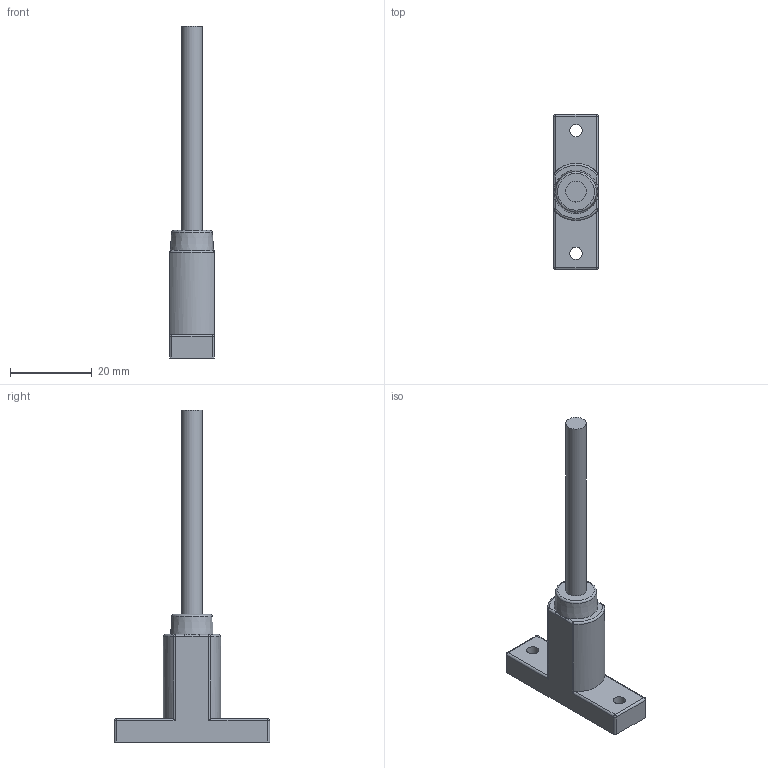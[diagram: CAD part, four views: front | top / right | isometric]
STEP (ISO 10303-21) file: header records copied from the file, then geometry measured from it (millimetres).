
FILE_DESCRIPTION(('FreeCAD Model'),'2;1');
FILE_NAME('Open CASCADE Shape Model','2026-06-03T11:51:20',(''),(''), 'Open CASCADE STEP processor 7.8','FreeCAD','Unknown');
FILE_SCHEMA(('AUTOMOTIVE_DESIGN { 1 0 10303 214 1 1 1 1 }'));
Length unit declared in the file: millimetre
Products named in the file (1): USB31-CMPCF-XXXX_F
Bounding box: 11 x 38 x 81.2 mm (x, y, z)
Volume: 6382.8 mm3; surface area: 3419.6 mm2
Topology: 1 solids, 1 shells, 63 faces, 149 edges, 85 vertices
Faces by surface type: cylinder 27, plane 21, bspline 7, sphere 4, torus 3, cone 1
Full cylindrical faces by diameter (mm): 3 x2, 5 x3
Entity records: 2004 total; most frequent: CARTESIAN_POINT 639, ORIENTED_EDGE 282, DIRECTION 276, EDGE_CURVE 141, AXIS2_PLACEMENT_3D 104, VERTEX_POINT 85, FACE_BOUND 72, EDGE_LOOP 72
